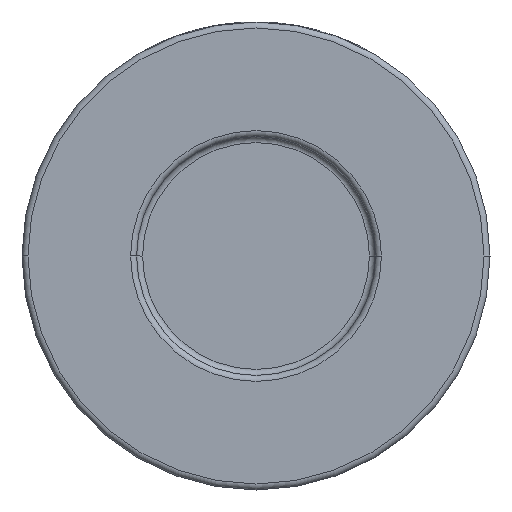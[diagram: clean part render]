
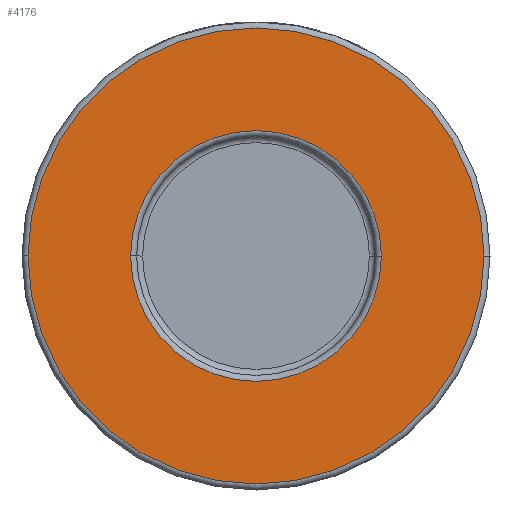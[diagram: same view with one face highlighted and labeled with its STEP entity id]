
A CAD part, front view. The second image highlights one B-rep face of the part: STEP entity #4176.
In plain terms, the highlighted planar face has unit normal (0, -1, 0).
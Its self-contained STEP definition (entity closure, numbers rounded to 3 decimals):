
#208 = EDGE_LOOP ( 'NONE', ( #3246, #2743 ) ) ;
#219 = CARTESIAN_POINT ( 'NONE',  ( -38., -26., 0. ) ) ;
#734 = EDGE_CURVE ( 'NONE', #1299, #2132, #2250, .T. ) ;
#990 = AXIS2_PLACEMENT_3D ( 'NONE', #2199, #1695, #3818 ) ;
#1062 = DIRECTION ( 'NONE',  ( 0., -1., 0. ) ) ;
#1289 = AXIS2_PLACEMENT_3D ( 'NONE', #1625, #4046, #1326 ) ;
#1299 = VERTEX_POINT ( 'NONE', #219 ) ;
#1326 = DIRECTION ( 'NONE',  ( 1., 0., 0. ) ) ;
#1426 = AXIS2_PLACEMENT_3D ( 'NONE', #1742, #1062, #4272 ) ;
#1625 = CARTESIAN_POINT ( 'NONE',  ( 39., -26., 0. ) ) ;
#1673 = FACE_OUTER_BOUND ( 'NONE', #208, .T. ) ;
#1695 = DIRECTION ( 'NONE',  ( 0., 1., 0. ) ) ;
#1742 = CARTESIAN_POINT ( 'NONE',  ( 0., -26., 0. ) ) ;
#1810 = AXIS2_PLACEMENT_3D ( 'NONE', #2504, #2457, #4277 ) ;
#1868 = DIRECTION ( 'NONE',  ( 0., 1., 0. ) ) ;
#2132 = VERTEX_POINT ( 'NONE', #4408 ) ;
#2199 = CARTESIAN_POINT ( 'NONE',  ( 0., -26., 0. ) ) ;
#2250 = CIRCLE ( 'NONE', #1426, 38. ) ;
#2401 = EDGE_CURVE ( 'NONE', #2626, #3742, #3336, .T. ) ;
#2457 = DIRECTION ( 'NONE',  ( 0., -1., 0. ) ) ;
#2504 = CARTESIAN_POINT ( 'NONE',  ( 0., -26., 0. ) ) ;
#2562 = DIRECTION ( 'NONE',  ( 1., 0., 0. ) ) ;
#2613 = CIRCLE ( 'NONE', #1810, 38. ) ;
#2626 = VERTEX_POINT ( 'NONE', #3781 ) ;
#2743 = ORIENTED_EDGE ( 'NONE', *, *, #734, .T. ) ;
#2804 = CARTESIAN_POINT ( 'NONE',  ( -20.9, -26., 0. ) ) ;
#2974 = CIRCLE ( 'NONE', #990, 20.9 ) ;
#3013 = EDGE_CURVE ( 'NONE', #3742, #2626, #2974, .T. ) ;
#3246 = ORIENTED_EDGE ( 'NONE', *, *, #3508, .T. ) ;
#3336 = CIRCLE ( 'NONE', #3505, 20.9 ) ;
#3427 = FACE_BOUND ( 'NONE', #3873, .T. ) ;
#3505 = AXIS2_PLACEMENT_3D ( 'NONE', #4334, #1868, #2562 ) ;
#3508 = EDGE_CURVE ( 'NONE', #2132, #1299, #2613, .T. ) ;
#3691 = ORIENTED_EDGE ( 'NONE', *, *, #2401, .T. ) ;
#3742 = VERTEX_POINT ( 'NONE', #2804 ) ;
#3781 = CARTESIAN_POINT ( 'NONE',  ( 20.9, -26., 0. ) ) ;
#3818 = DIRECTION ( 'NONE',  ( 1., 0., 0. ) ) ;
#3873 = EDGE_LOOP ( 'NONE', ( #3691, #4241 ) ) ;
#4046 = DIRECTION ( 'NONE',  ( 0., -1., 0. ) ) ;
#4176 = ADVANCED_FACE ( 'NONE', ( #3427, #1673 ), #4415, .T. ) ;
#4241 = ORIENTED_EDGE ( 'NONE', *, *, #3013, .T. ) ;
#4272 = DIRECTION ( 'NONE',  ( 1., 0., 0. ) ) ;
#4277 = DIRECTION ( 'NONE',  ( 1., 0., 0. ) ) ;
#4334 = CARTESIAN_POINT ( 'NONE',  ( 0., -26., 0. ) ) ;
#4408 = CARTESIAN_POINT ( 'NONE',  ( 38., -26., 0. ) ) ;
#4415 = PLANE ( 'NONE',  #1289 ) ;
